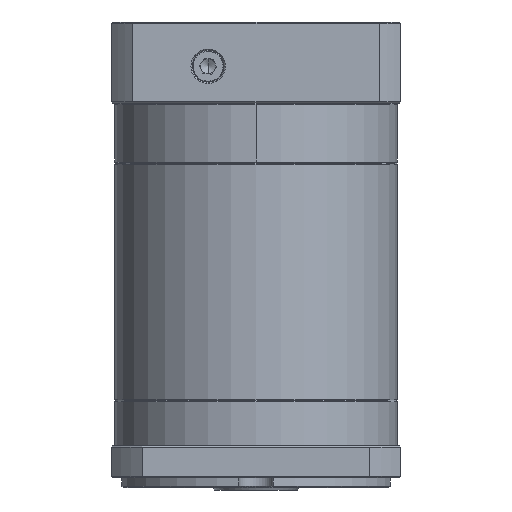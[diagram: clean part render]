
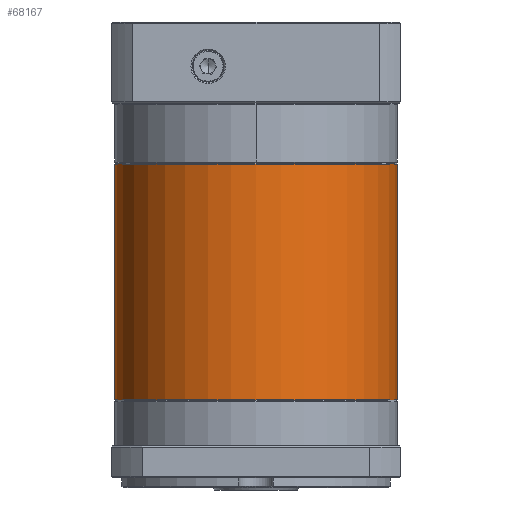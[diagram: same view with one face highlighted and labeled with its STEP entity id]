
A CAD part, front view. The second image highlights one B-rep face of the part: STEP entity #68167.
In plain terms, the highlighted cylindrical face has radius 57.5 mm (diameter 115 mm), a partial arc.
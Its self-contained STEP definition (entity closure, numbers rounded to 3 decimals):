
#2369 = EDGE_CURVE ( 'NONE', #27744, #119323, #14037, .T. ) ;
#3378 = CARTESIAN_POINT ( 'NONE',  ( 48.659, 66.552, -62.096 ) ) ;
#14037 = CIRCLE ( 'NONE', #41861, 57.5 ) ;
#17644 = VECTOR ( 'NONE', #117381, 1000. ) ;
#21441 = DIRECTION ( 'NONE',  ( 0., 0., -1. ) ) ;
#27744 = VERTEX_POINT ( 'NONE', #85053 ) ;
#28195 = CARTESIAN_POINT ( 'NONE',  ( -8.841, 66.552, -62.096 ) ) ;
#31578 = ORIENTED_EDGE ( 'NONE', *, *, #2369, .T. ) ;
#31942 = ORIENTED_EDGE ( 'NONE', *, *, #102301, .T. ) ;
#41861 = AXIS2_PLACEMENT_3D ( 'NONE', #77789, #46909, #96232 ) ;
#41883 = VECTOR ( 'NONE', #48939, 1000. ) ;
#44810 = EDGE_LOOP ( 'NONE', ( #50931, #31578, #31942, #49569, #52223 ) ) ;
#44856 = CIRCLE ( 'NONE', #115318, 57.5 ) ;
#46820 = CARTESIAN_POINT ( 'NONE',  ( 106.159, 66.552, -62.096 ) ) ;
#46909 = DIRECTION ( 'NONE',  ( 0., 0., -1. ) ) ;
#47118 = FACE_OUTER_BOUND ( 'NONE', #44810, .T. ) ;
#48939 = DIRECTION ( 'NONE',  ( 0., 0., -1. ) ) ;
#49569 = ORIENTED_EDGE ( 'NONE', *, *, #113740, .T. ) ;
#50931 = ORIENTED_EDGE ( 'NONE', *, *, #109812, .F. ) ;
#52223 = ORIENTED_EDGE ( 'NONE', *, *, #52307, .T. ) ;
#52307 = EDGE_CURVE ( 'NONE', #109379, #83965, #64413, .T. ) ;
#59466 = CYLINDRICAL_SURFACE ( 'NONE', #94295, 57.5 ) ;
#64413 = CIRCLE ( 'NONE', #124929, 57.5 ) ;
#66662 = CARTESIAN_POINT ( 'NONE',  ( -8.841, 66.552, -158.308 ) ) ;
#68167 = ADVANCED_FACE ( 'NONE', ( #47118 ), #59466, .T. ) ;
#73994 = DIRECTION ( 'NONE',  ( -1., 0., 0. ) ) ;
#77789 = CARTESIAN_POINT ( 'NONE',  ( 48.659, 66.552, -62.596 ) ) ;
#78830 = LINE ( 'NONE', #46820, #41883 ) ;
#79814 = VERTEX_POINT ( 'NONE', #123464 ) ;
#83965 = VERTEX_POINT ( 'NONE', #87061 ) ;
#84680 = CARTESIAN_POINT ( 'NONE',  ( 48.659, 66.552, -158.308 ) ) ;
#85053 = CARTESIAN_POINT ( 'NONE',  ( 106.159, 66.552, -62.596 ) ) ;
#87061 = CARTESIAN_POINT ( 'NONE',  ( 106.159, 66.552, -158.308 ) ) ;
#91778 = CARTESIAN_POINT ( 'NONE',  ( 48.659, 9.052, -62.596 ) ) ;
#92295 = DIRECTION ( 'NONE',  ( -1., 0., 0. ) ) ;
#92850 = LINE ( 'NONE', #28195, #17644 ) ;
#94295 = AXIS2_PLACEMENT_3D ( 'NONE', #3378, #21441, #120850 ) ;
#96232 = DIRECTION ( 'NONE',  ( -1., 0., 0. ) ) ;
#100866 = DIRECTION ( 'NONE',  ( 0., 0., -1. ) ) ;
#102301 = EDGE_CURVE ( 'NONE', #119323, #79814, #44856, .T. ) ;
#109379 = VERTEX_POINT ( 'NONE', #66662 ) ;
#109812 = EDGE_CURVE ( 'NONE', #27744, #83965, #78830, .T. ) ;
#110733 = CARTESIAN_POINT ( 'NONE',  ( 48.659, 66.552, -62.596 ) ) ;
#113740 = EDGE_CURVE ( 'NONE', #79814, #109379, #92850, .T. ) ;
#113857 = DIRECTION ( 'NONE',  ( 0., 0., 1. ) ) ;
#115318 = AXIS2_PLACEMENT_3D ( 'NONE', #110733, #100866, #92295 ) ;
#117381 = DIRECTION ( 'NONE',  ( 0., 0., -1. ) ) ;
#119323 = VERTEX_POINT ( 'NONE', #91778 ) ;
#120850 = DIRECTION ( 'NONE',  ( -1., 0., 0. ) ) ;
#123464 = CARTESIAN_POINT ( 'NONE',  ( -8.841, 66.552, -62.596 ) ) ;
#124929 = AXIS2_PLACEMENT_3D ( 'NONE', #84680, #113857, #73994 ) ;
